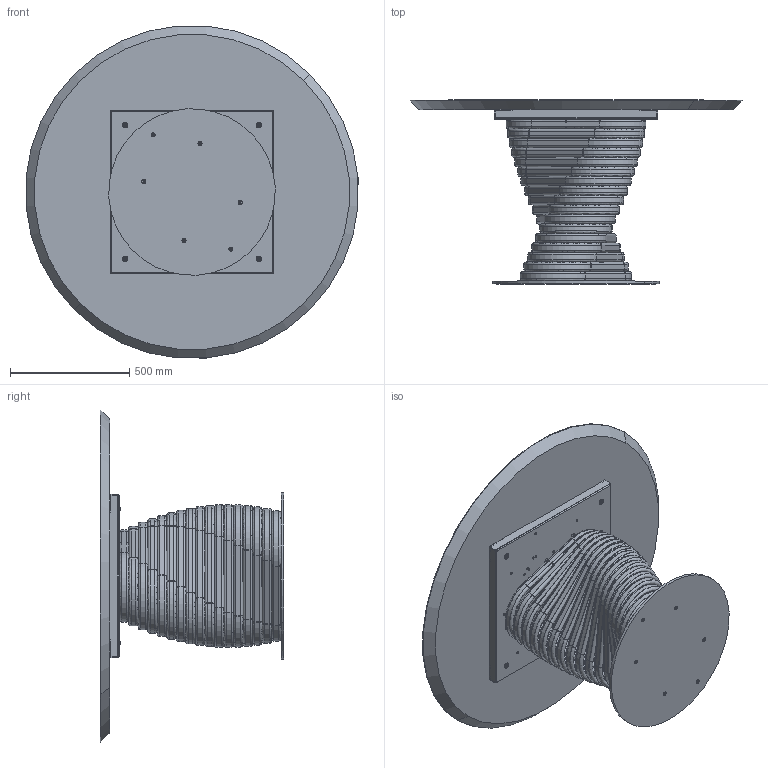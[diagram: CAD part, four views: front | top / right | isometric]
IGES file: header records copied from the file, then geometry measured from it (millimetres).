
Start section: SolidWorks IGES file using analytic representation for surfaces
Global section: file name: Y:\eforma\TECNICO\SOLIDWORKS\E-FORMA\1-TAVOLI\ROTOLO\02 parts\RO06W.IGS; native system: SolidWorks 2022; preprocessor: SolidWorks 2022; author: eforma.tech; date: 240807.150842; units: millimetre
Bounding box: 1394.67 x 772 x 1394.67 mm (x, y, z)
Volume: 70424102.3 mm3; surface area: 10044368.3 mm2
Topology: 97 solids, 97 shells, 1790 faces, 4364 edges, 2740 vertices
Faces by surface type: revolution 1048, plane 742
